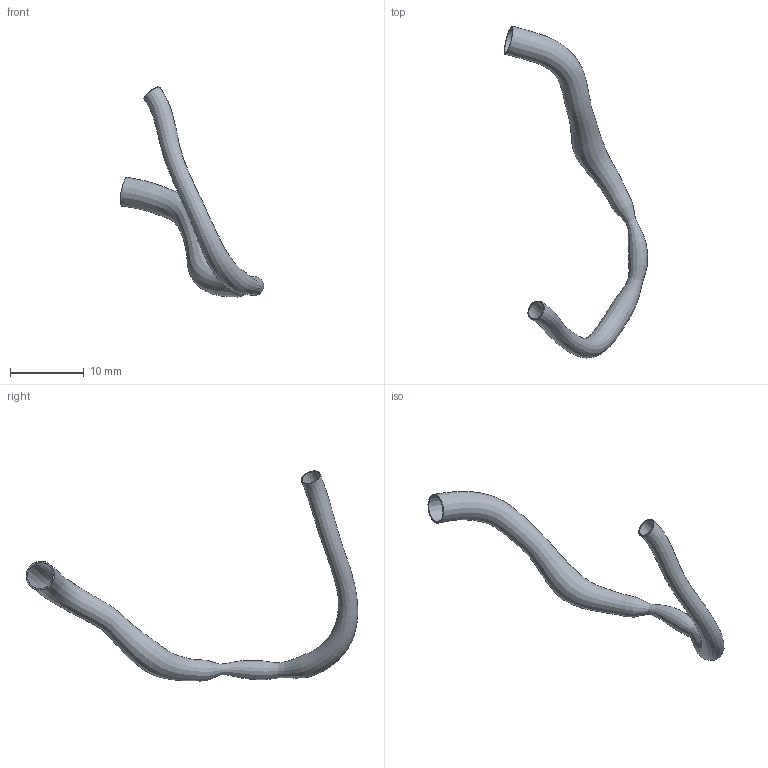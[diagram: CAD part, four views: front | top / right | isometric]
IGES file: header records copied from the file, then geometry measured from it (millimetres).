
Global section: file name: C:\Documents and Settings\Administrator\Desktop\FDA Bifurcation win\RawData_for_IGES\HRCA_Data\20001205.093751\IGES\20001205.093751.RCA.SEG.ES.igs; native system: Rhinoceros ( May 19 2006 ); preprocessor: Trout Lake IGES 012 May 19 2006; date: 100728.204105; units: centimetre
Bounding box: 19.5 x 45.14 x 28.57 mm (x, y, z)
Surface area: 1445.3 mm2 (no closed solid volume)
Topology: 0 solids, 0 shells, 4 faces, 12 edges, 8 vertices
Faces by surface type: bspline 4
